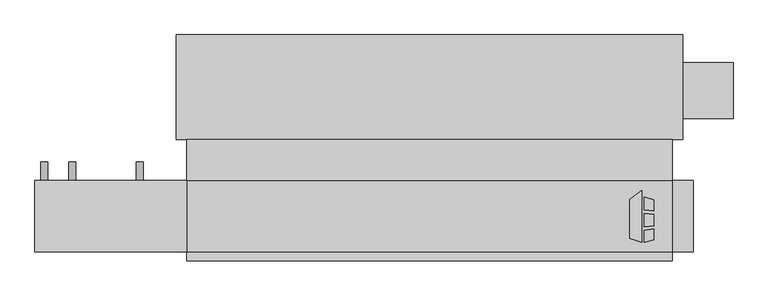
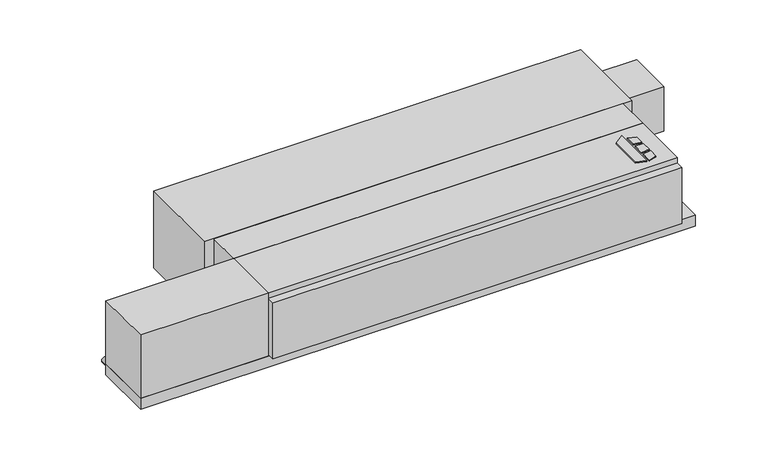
"""IFC4 building model written with IfcOpenShell, lengths in millimetres: proxy geometry, Concealed_Horizontal_Fan_Coil_Unit_With_Plenum_-_CPF_-_IEC_-_2-Pipe_LH : Size 10 - 115v/60Hz/1Ph - 4/1 Coil."""

from ifc_helpers import new_model, si_unit, point, frame, frame_2d, origin, origin_with_axes, place, context, project, spatial, polyline, circle_curve, trimmed, segment, composite_curve, outline, extrude, source, transform, mapped, element, save


def mechanical_equipment_361e63f6(model_context):
    return source(origin(), model_context, "Body", "SweptSolid", [
        extrude(outline(polyline([(696.6019761, -193.0453476), (729.1602728, -167.6080184), (729.1602728, -309.5625), (696.6019761, -299.3429201), (696.6019761, -193.0453476)])), origin_with_axes(), (0.0, 0.0, 1.0), 3.175),
        extrude(outline(polyline([(735.9186058, -220.917352), (735.9186058, -186.4374379), (762.0, -194.6240115), (762.0, -224.1197446), (735.9186058, -220.917352)])), origin_with_axes(), (0.0, 0.0, 1.0), 3.175),
        extrude(outline(polyline([(762.0, -302.5740115), (735.9186058, -309.5625), (735.9186058, -276.3411996), (762.0, -272.7993564), (762.0, -302.5740115)])), origin_with_axes(), (0.0, 0.0, 1.0), 3.175),
        extrude(outline(polyline([(762.0, -233.2013277), (762.0, -264.451483), (735.9186058, -267.192748), (735.9186058, -231.3350378), (762.0, -233.2013277)])), origin_with_axes(), (0.0, 0.0, 1.0), 3.175),
        extrude(outline(polyline([(-508.0, -30.1625), (812.8, -30.1625), (812.8, -141.2875), (-508.0, -141.2875), (-508.0, -30.1625)])), frame((0.0, 0.0, -215.9), z_axis=(0.0, 0.0, 1.0), x_axis=(1.0, 0.0, 0.0)), (0.0, 0.0, 1.0), 215.9),
        extrude(outline(polyline([(-920.75, -334.9625), (-920.75, -141.2875), (-508.0, -141.2875), (-508.0, -334.9625), (-920.75, -334.9625)])), frame((0.0, 0.0, -215.9), z_axis=(0.0, 0.0, 1.0), x_axis=(1.0, 0.0, 0.0)), (0.0, 0.0, 1.0), 215.9),
        extrude(outline(polyline([(869.95, -141.2875), (869.95, -334.9625), (-920.75, -334.9625), (-920.75, -141.2875), (869.95, -141.2875)])), frame((0.0, 0.0, -254.0), z_axis=(0.0, 0.0, 1.0), x_axis=(1.0, 0.0, 0.0)), (0.0, 0.0, 1.0), 38.1),
        extrude(outline(composite_curve([segment(trimmed(circle_curve(frame_2d((-158.75, -819.15)), 9.525), [point((-158.75, -809.625))], [point((-158.75, -828.675))], False, "CARTESIAN"), True, "CONTINUOUS"), segment(trimmed(circle_curve(frame_2d((-158.75, -819.15)), 9.525), [point((-158.75, -828.675))], [point((-158.75, -809.625))], False, "CARTESIAN"), True, "CONTINUOUS")], self_intersect=False)), frame((0.0, -141.2875, 0.0), z_axis=(0.0, 1.0, 0.0), x_axis=(0.0, 0.0, 1.0)), (0.0, 0.0, 1.0), 50.8),
        extrude(outline(composite_curve([segment(trimmed(circle_curve(frame_2d((-158.75, -635.0)), 9.525), [point((-158.75, -625.475))], [point((-158.75, -644.525))], False, "CARTESIAN"), True, "CONTINUOUS"), segment(trimmed(circle_curve(frame_2d((-158.75, -635.0)), 9.525), [point((-158.75, -644.525))], [point((-158.75, -625.475))], False, "CARTESIAN"), True, "CONTINUOUS")], self_intersect=False)), frame((0.0, -141.2875, 0.0), z_axis=(0.0, 1.0, 0.0), x_axis=(0.0, 0.0, 1.0)), (0.0, 0.0, 1.0), 50.8),
        extrude(outline(composite_curve([segment(trimmed(circle_curve(frame_2d((-241.3, -895.35)), 9.525), [point((-241.3, -904.875))], [point((-241.3, -885.825))], False, "CARTESIAN"), True, "CONTINUOUS"), segment(trimmed(circle_curve(frame_2d((-241.3, -895.35)), 9.525), [point((-241.3, -885.825))], [point((-241.3, -904.875))], False, "CARTESIAN"), True, "CONTINUOUS")], self_intersect=False)), frame((0.0, -141.2875, 0.0), z_axis=(0.0, 1.0, 0.0), x_axis=(0.0, 0.0, 1.0)), (0.0, 0.0, 1.0), 50.8),
        extrude(outline(polyline([(812.8, -334.9625), (812.8, -360.3625), (-508.0, -360.3625), (-508.0, -334.9625), (812.8, -334.9625)])), frame((0.0, 0.0, -209.55), z_axis=(0.0, 0.0, 1.0), x_axis=(1.0, 0.0, 0.0)), (0.0, 0.0, 1.0), 190.5),
        extrude(outline(polyline([(812.8, -334.9625), (-508.0, -334.9625), (-508.0, -141.2875), (812.8, -141.2875), (812.8, -334.9625)])), frame((0.0, 0.0, -215.9), z_axis=(0.0, 0.0, 1.0), x_axis=(1.0, 0.0, 0.0)), (0.0, 0.0, 1.0), 215.9),
        extrude(outline(polyline([(841.375, 26.9875), (841.375, 179.3875), (977.9, 179.3875), (977.9, 26.9875), (841.375, 26.9875)])), frame((0.0, 0.0, -187.325), z_axis=(0.0, 0.0, 1.0), x_axis=(1.0, 0.0, 0.0)), (0.0, 0.0, 1.0), 152.4),
        extrude(outline(polyline([(-536.575, 255.5875), (841.375, 255.5875), (841.375, -30.1625), (-536.575, -30.1625), (-536.575, 255.5875)])), frame((0.0, 0.0, -263.525), z_axis=(0.0, 0.0, 1.0), x_axis=(1.0, 0.0, 0.0)), (0.0, 0.0, 1.0), 263.525),
    ])


if __name__ == "__main__":
    model = new_model("IFC4")
    model_context = context("Model", 3, world=origin())
    ifc_project = project(units=[si_unit("LENGTHUNIT", "METRE", prefix="MILLI")], contexts=[model_context])
    site = spatial("IfcSite", under=ifc_project)
    building = spatial("IfcBuilding", under=site)
    placement = place(None, origin())
    mechanical_equipment_shape = mechanical_equipment_361e63f6(model_context)
    element("IfcBuildingElementProxy", 1, Name="Concealed_Horizontal_Fan_Coil_Unit_With_Plenum_-_CPF_-_IEC_-_2-Pipe_LH : Size 10 - 115v/60Hz/1Ph - 4/1 Coil", ObjectType="Concealed_Horizontal_Fan_Coil_Unit_With_Plenum_-_CPF_-_IEC_-_2-Pipe_LH : Size 10 - 115v/60Hz/1Ph - 4/1 Coil", at=placement, inside=building, context=model_context, shape_type="MappedRepresentation", body=[
        mapped(mechanical_equipment_shape, transform((0.0, 0.0, 0.0), x_axis=(1.0, 0.0, 0.0), y_axis=(0.0, 1.0, 0.0), z_axis=(0.0, 0.0, 1.0))),
    ])
    save(model, "model.ifc")
